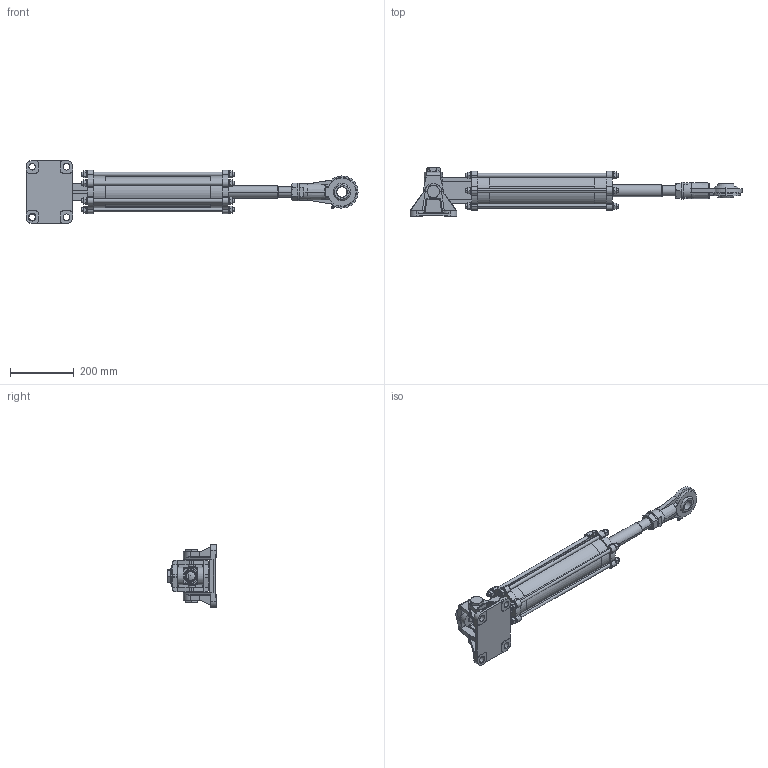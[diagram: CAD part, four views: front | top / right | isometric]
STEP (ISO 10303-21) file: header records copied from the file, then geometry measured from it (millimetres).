
FILE_DESCRIPTION (( 'STEP AP214' ), '1' );
FILE_NAME ('7085-U10.STEP', '2019-06-11T20:20:14', ( '' ), ( '' ), 'SwSTEP 2.0', 'SolidWorks 2019', '' );
FILE_SCHEMA (( 'AUTOMOTIVE_DESIGN' ));
Length unit declared in the file: inch
Products named in the file (1): 7085-U10
Bounding box: 1043.05 x 151.94 x 197.64 mm (x, y, z)
Surface area: 648342.9 mm2 (no closed solid volume)
Topology: 0 solids, 52 shells, 832 faces, 2390 edges, 1582 vertices
Faces by surface type: plane 333, cylinder 277, cone 170, torus 44, sphere 6, bspline 2
Entity records: 39715 total; most frequent: CARTESIAN_POINT 7486, DIRECTION 4591, ORIENTED_EDGE 4171, EDGE_CURVE 2383, AXIS2_PLACEMENT_3D 1814, VERTEX_POINT 1579, CIRCLE 983, VECTOR 963
